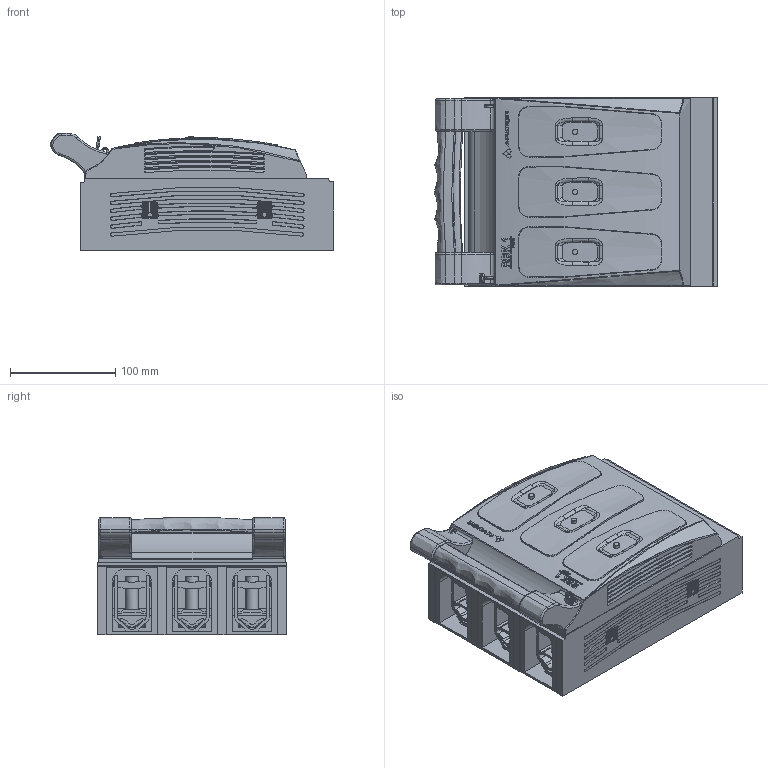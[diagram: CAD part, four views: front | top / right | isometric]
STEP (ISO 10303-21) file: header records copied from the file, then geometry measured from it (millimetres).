
FILE_DESCRIPTION(/* description */ (''),/* implementation_level */ '2;1');
FILE_NAME(/* name */ 'RBK 1 pro-V - 63-811748-031.stp',/* time_stamp */ '2019-03-08T14:54:33+01:00',/* author */ (''),/* organization */ (''),/* preprocessor_version */ 'ST-DEVELOPER v16',/* originating_system */ 'SIEMENS PLM Software NX 10.0',/* authorisation */ '');
FILE_SCHEMA (('AUTOMOTIVE_DESIGN { 1 0 10303 214 3 1 1 1 }'));
Products named in the file (1): 710_23CC0B2D1ju3
Bounding box: 268.9 x 180 x 111 mm (x, y, z)
Surface area: 324365.7 mm2
Topology: 6 solids, 7 shells, 2740 faces, 7351 edges, 4693 vertices
Faces by surface type: plane 1721, bspline 365, cylinder 355, cone 130, torus 75, extrusion 52, sphere 24, revolution 18
Entity records: 108347 total; most frequent: CARTESIAN_POINT 38007, ORIENTED_EDGE 14514, DIRECTION 13116, EDGE_CURVE 7257, VERTEX_POINT 4678, AXIS2_PLACEMENT_3D 4632, VECTOR 3830, LINE 3778
